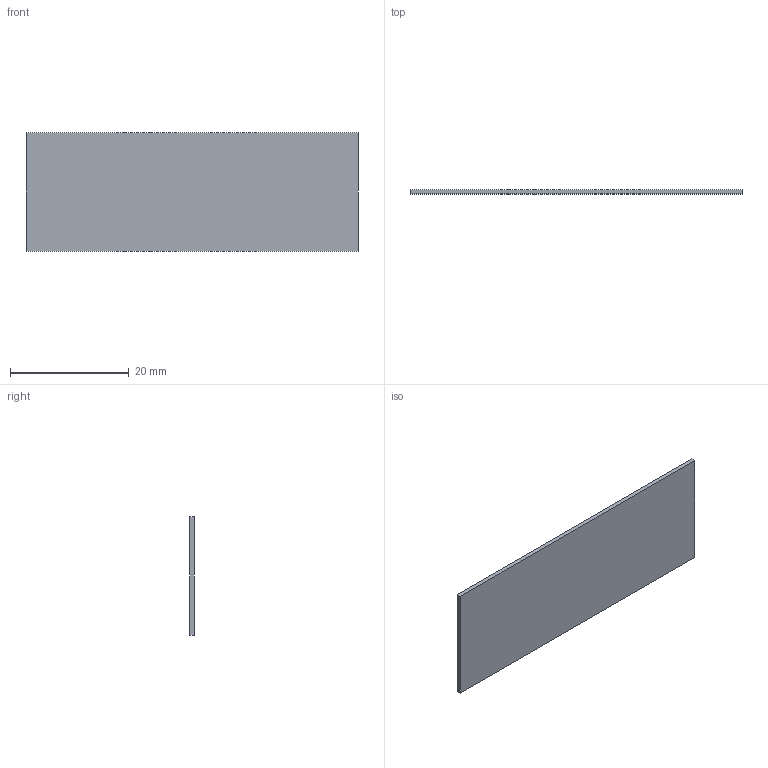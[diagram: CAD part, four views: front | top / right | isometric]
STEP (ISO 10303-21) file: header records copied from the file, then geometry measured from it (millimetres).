
FILE_DESCRIPTION(('Open CASCADE Model'),'2;1');
FILE_NAME('rear_service_cover_PA12','2026-09-06T11:35:16',('Author'),( 'Open CASCADE'),'Open CASCADE STEP processor 7.8','build123d', 'Unknown');
FILE_SCHEMA(('AUTOMOTIVE_DESIGN { 1 0 10303 214 1 1 1 1 }'));
Length unit declared in the file: millimetre
Products named in the file (1): rear_service_cover_PA12
Bounding box: 56 x 0.7 x 20 mm (x, y, z)
Volume: 784 mm3; surface area: 2346.4 mm2
Topology: 1 solids, 1 shells, 6 faces, 12 edges, 8 vertices
Faces by surface type: plane 6
Entity records: 323 total; most frequent: CARTESIAN_POINT 59, DIRECTION 42, LINE 28, VECTOR 28, ORIENTED_EDGE 24, PCURVE 24, DEFINITIONAL_REPRESENTATION 24, EDGE_CURVE 12
